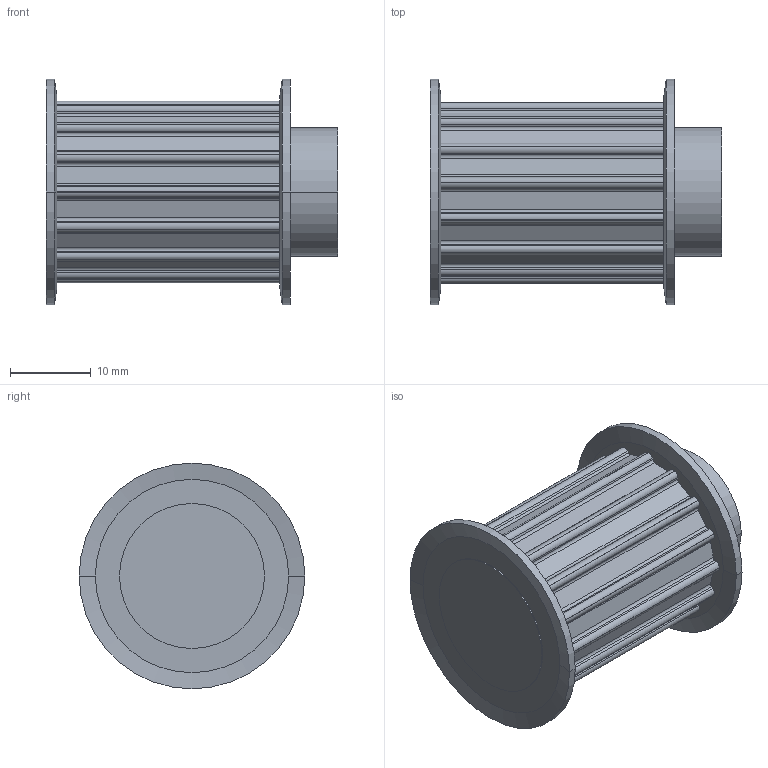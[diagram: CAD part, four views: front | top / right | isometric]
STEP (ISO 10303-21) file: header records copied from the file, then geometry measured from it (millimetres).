
FILE_DESCRIPTION( ( '' ), '1' );
FILE_NAME( 'C:/Users/Stangenbergd/Documents/CAD_Step/1/16641500.stp', '2021-10-19T09:37:39', ( '' ), ( '' ), ' ', ' ', ' ' );
FILE_SCHEMA( ( 'CONFIG_CONTROL_DESIGN' ) );
Length unit declared in the file: millimetre
Products named in the file (1): 1
Bounding box: 36.13 x 28 x 28 mm (x, y, z)
Volume: 12243.2 mm3; surface area: 4551.8 mm2
Topology: 1 solids, 1 shells, 146 faces, 409 edges, 270 vertices
Faces by surface type: cylinder 86, plane 52, cone 8
Entity records: 4813 total; most frequent: DIRECTION 883, CARTESIAN_POINT 826, ORIENTED_EDGE 818, EDGE_CURVE 409, AXIS2_PLACEMENT_3D 327, VERTEX_POINT 270, LINE 229, VECTOR 229
